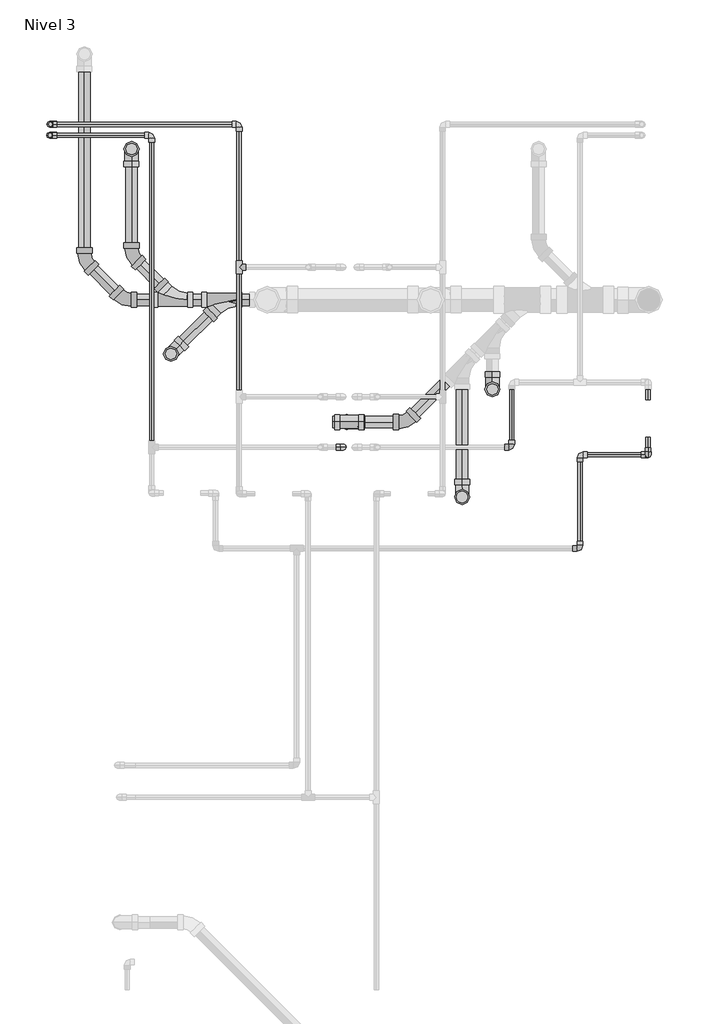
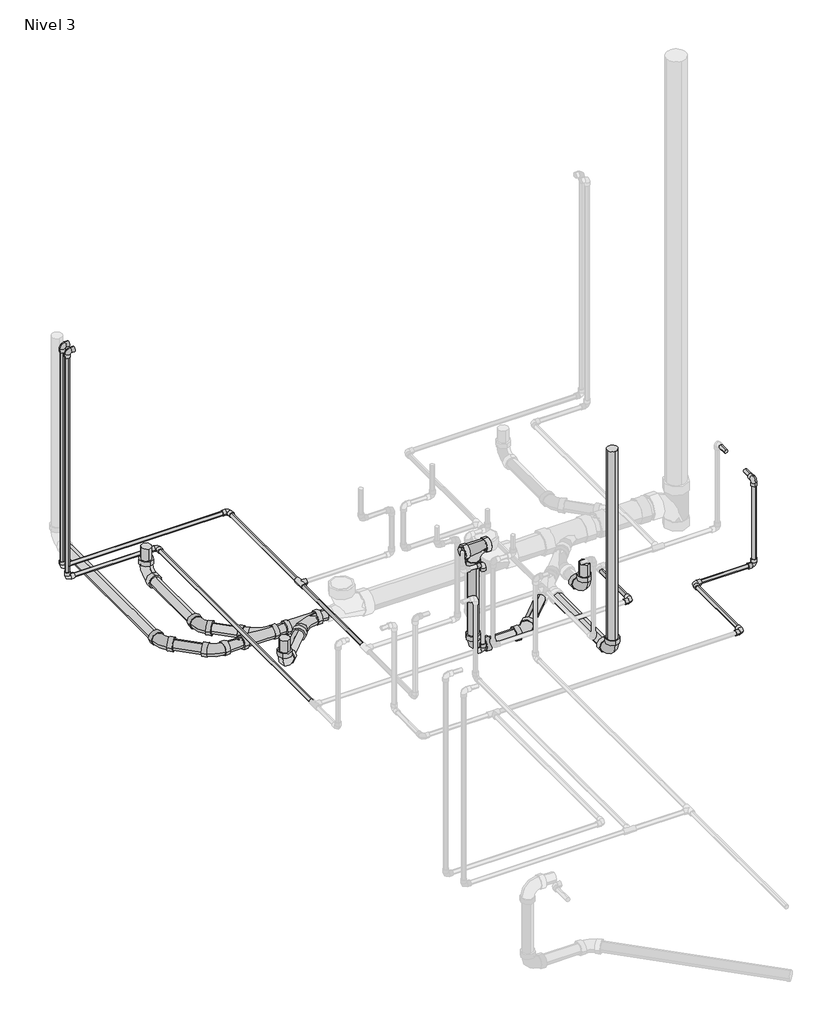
# One storey, part 8 of 9: 31 pipe segments, 26 pipe fittings.
"""IFC4 building model written with IfcOpenShell, lengths in millimetres."""

from ifc_helpers import new_model, si_unit, point, frame, frame_2d, origin, place, context, project, spatial, circle_curve, trimmed, segment, composite_curve, outline, extrude, transform, mapped, element, save
from components import pipe_fitting_ab418b84, pipe_fitting_0163322b, pipe_fitting_6ef1482d, m_codo_pvc_serie_40_9ad74631, m_codo_pvc_serie_40_ba05d404, m_codo_pvc_serie_40_dwv1_5c0ec739, m_codo_pvc_serie_40_dwv1_6f1a2495

model = new_model("IFC4")

# Units and contexts
model_context = context("Model", 3, world=origin())
ifc_project = project(units=[si_unit("LENGTHUNIT", "METRE", prefix="MILLI")], contexts=[model_context])

# Site, building, storey
site = spatial("IfcSite", under=ifc_project)
building = spatial("IfcBuilding", under=site)
storey = spatial("IfcBuildingStorey", under=building, Name="Nivel 3", Elevation=5450.0)

# Pipe fittings
placement = place(None, origin())
pipe_fitting_shape = pipe_fitting_ab418b84(model_context)
element("IfcPipeFitting", 1, ObjectType="M_Te - PVC - Serie 40 : Estándar", at=placement, inside=storey, context=model_context, shape_type="MappedRepresentation", body=[
    mapped(pipe_fitting_shape, transform((3940.052369, 16556.8784649, 5400.0), x_axis=(0.0, 1.0, 0.0), y_axis=(-1.0, 0.0, 0.0), z_axis=(0.0, 0.0, 1.0))),
])
pipe_fitting_2_shape = pipe_fitting_0163322b(model_context)
element("IfcPipeFitting", 2, ObjectType="M_Sanitario con te de reducción - PVC - Serie 40 - DWV : Estándar", at=placement, inside=storey, context=model_context, shape_type="MappedRepresentation", body=[
    mapped(pipe_fitting_2_shape, transform((3642.8791077, 16403.3960274, 5300.0), x_axis=(-1.0, 0.0, 0.0), y_axis=(0.0, -1.0, 0.0), z_axis=(0.0, 0.0, 1.0))),
])
element("IfcPipeFitting", 3, ObjectType="M_Sanitario con te de reducción - PVC - Serie 40 - DWV : Estándar", at=placement, inside=storey, context=model_context, shape_type="MappedRepresentation", body=[
    mapped(pipe_fitting_2_shape, transform((3873.1661658, 16403.3960274, 5300.0), x_axis=(-1.0, 0.0, 0.0), y_axis=(0.0, 1.0, 0.0), z_axis=(0.0, 0.0, -1.0))),
])
pipe_fitting_3_shape = pipe_fitting_6ef1482d(model_context)
element("IfcPipeFitting", 4, ObjectType="M_Sanitario con te de reducción - PVC - Serie 40 - DWV : Estándar", at=placement, inside=storey, context=model_context, shape_type="MappedRepresentation", body=[
    mapped(pipe_fitting_3_shape, transform((4444.9531324, 15830.0, 5860.6716548), x_axis=(-1.0, 0.0, 0.0), y_axis=(0.0, 0.0, 1.0), z_axis=(0.0, 1.0, 0.0))),
])
m_codo_pvc_serie_40_shape = m_codo_pvc_serie_40_9ad74631(model_context)
element("IfcPipeFitting", 5, ObjectType="M_Codo - PVC - Serie 40 : Estándar", at=placement, inside=storey, context=model_context, shape_type="MappedRepresentation", body=[
    mapped(m_codo_pvc_serie_40_shape, transform((3940.052369, 17227.3386211, 5400.0), x_axis=(0.0, 1.0, 0.0), y_axis=(-1.0, 0.0, 0.0), z_axis=(0.0, 0.0, 1.0))),
])
element("IfcPipeFitting", 6, ObjectType="M_Codo - PVC - Serie 40 : Estándar", at=placement, inside=storey, context=model_context, shape_type="MappedRepresentation", body=[
    mapped(m_codo_pvc_serie_40_shape, transform((3051.302369, 17227.3386211, 5400.0), x_axis=(-1.0, 0.0, 0.0), y_axis=(0.0, 0.0, 1.0), z_axis=(0.0, 1.0, 0.0))),
])
element("IfcPipeFitting", 7, ObjectType="M_Codo - PVC - Serie 40 : Estándar", at=placement, inside=storey, context=model_context, shape_type="MappedRepresentation", body=[
    mapped(m_codo_pvc_serie_40_shape, transform((3051.302369, 17227.3386211, 6650.0), x_axis=(0.0, 0.0, 1.0), y_axis=(1.0, 0.0, 0.0), z_axis=(0.0, 1.0, 0.0))),
])
element("IfcPipeFitting", 8, ObjectType="M_Codo - PVC - Serie 40 : Estándar", at=placement, inside=storey, context=model_context, shape_type="MappedRepresentation", body=[
    mapped(m_codo_pvc_serie_40_shape, transform((3529.5674476, 17176.3878958, 5370.0), x_axis=(0.0, 1.0, 0.0), y_axis=(-1.0, 0.0, 0.0), z_axis=(0.0, 0.0, 1.0))),
])
element("IfcPipeFitting", 9, ObjectType="M_Codo - PVC - Serie 40 : Estándar", at=placement, inside=storey, context=model_context, shape_type="MappedRepresentation", body=[
    mapped(m_codo_pvc_serie_40_shape, transform((3049.5674476, 17176.3878958, 5370.0), x_axis=(-1.0, 0.0, 0.0), y_axis=(0.0, 0.0, 1.0), z_axis=(0.0, 1.0, 0.0))),
])
element("IfcPipeFitting", 10, ObjectType="M_Codo - PVC - Serie 40 : Estándar", at=placement, inside=storey, context=model_context, shape_type="MappedRepresentation", body=[
    mapped(m_codo_pvc_serie_40_shape, transform((3049.5674476, 17176.3878958, 6650.0), x_axis=(0.0, 0.0, 1.0), y_axis=(1.0, 0.0, 0.0), z_axis=(0.0, 1.0, 0.0))),
])
element("IfcPipeFitting", 11, ObjectType="M_Codo - PVC - Serie 40 : Estándar", at=placement, inside=storey, context=model_context, shape_type="MappedRepresentation", body=[
    mapped(m_codo_pvc_serie_40_shape, transform((5540.0276039, 15236.3878958, 5370.0), x_axis=(1.0, 0.0, 0.0), y_axis=(0.0, 1.0, 0.0), z_axis=(0.0, 0.0, 1.0))),
])
element("IfcPipeFitting", 12, ObjectType="M_Codo - PVC - Serie 40 : Estándar", at=placement, inside=storey, context=model_context, shape_type="MappedRepresentation", body=[
    mapped(m_codo_pvc_serie_40_shape, transform((5540.0276039, 15676.3878958, 5370.0), x_axis=(-1.0, 0.0, 0.0), y_axis=(0.0, -1.0, 0.0), z_axis=(0.0, 0.0, 1.0))),
])
element("IfcPipeFitting", 13, ObjectType="M_Codo - PVC - Serie 40 : Estándar", at=placement, inside=storey, context=model_context, shape_type="MappedRepresentation", body=[
    mapped(m_codo_pvc_serie_40_shape, transform((5860.0276039, 15676.3878958, 5370.0), x_axis=(1.0, 0.0, 0.0), y_axis=(0.0, 0.0, 1.0), z_axis=(0.0, -1.0, 0.0))),
])
element("IfcPipeFitting", 14, ObjectType="M_Codo - PVC - Serie 40 : Estándar", at=placement, inside=storey, context=model_context, shape_type="MappedRepresentation", body=[
    mapped(m_codo_pvc_serie_40_shape, transform((5860.0276039, 15676.3878958, 5850.0), x_axis=(0.0, 0.0, 1.0), y_axis=(0.0, 1.0, 0.0), z_axis=(-1.0, 0.0, 0.0))),
])
element("IfcPipeFitting", 15, ObjectType="M_Codo - PVC - Serie 40 : Estándar", at=placement, inside=storey, context=model_context, shape_type="MappedRepresentation", body=[
    mapped(m_codo_pvc_serie_40_shape, transform((5219.5674476, 15711.6215833, 5370.0), x_axis=(1.0, 0.0, 0.0), y_axis=(0.0, 1.0, 0.0), z_axis=(0.0, 0.0, 1.0))),
])
element("IfcPipeFitting", 16, ObjectType="M_Codo - PVC - Serie 40 : Estándar", at=placement, inside=storey, context=model_context, shape_type="MappedRepresentation", body=[
    mapped(m_codo_pvc_serie_40_shape, transform((4428.802369, 15711.6215833, 5370.0), x_axis=(0.0, 0.0, -1.0), y_axis=(-1.0, 0.0, 0.0), z_axis=(0.0, 1.0, 0.0))),
])
m_codo_pvc_serie_40_2_shape = m_codo_pvc_serie_40_ba05d404(model_context)
element("IfcPipeFitting", 17, ObjectType="M_Codo - PVC - Serie 40 : Estándar", at=placement, inside=storey, context=model_context, shape_type="MappedRepresentation", body=[
    mapped(m_codo_pvc_serie_40_2_shape, transform((4428.802369, 15711.6215833, 5850.0), x_axis=(1.0, 0.0, 0.0), y_axis=(0.0, 0.0, 1.0), z_axis=(0.0, -1.0, 0.0))),
])
m_codo_pvc_serie_40_dwv1_shape = m_codo_pvc_serie_40_dwv1_5c0ec739(model_context)
element("IfcPipeFitting", 18, ObjectType="M_Codo - PVC - Serie 40 - DWV1 : Estándar 2", at=placement, inside=storey, context=model_context, shape_type="MappedRepresentation", body=[
    mapped(m_codo_pvc_serie_40_dwv1_shape, transform((3434.5151234, 17111.7600116, 5300.0), x_axis=(0.0, 1.0, 0.0), y_axis=(0.0, 0.0, 1.0), z_axis=(1.0, 0.0, 0.0))),
])
element("IfcPipeFitting", 19, ObjectType="M_Codo - PVC - Serie 40 - DWV1 : Estándar 2", at=placement, inside=storey, context=model_context, shape_type="MappedRepresentation", body=[
    mapped(m_codo_pvc_serie_40_dwv1_shape, transform((4444.9531324, 15830.0, 5300.0), x_axis=(0.0, 0.0, -1.0), y_axis=(1.0, 0.0, 0.0), z_axis=(0.0, -1.0, 0.0))),
])
element("IfcPipeFitting", 20, ObjectType="M_Codo - PVC - Serie 40 - DWV1 : Estándar 2", at=placement, inside=storey, context=model_context, shape_type="MappedRepresentation", body=[
    mapped(m_codo_pvc_serie_40_dwv1_shape, transform((5128.991198, 15983.6158639, 5300.0), x_axis=(0.0, -1.0, 0.0), y_axis=(0.0, 0.0, 1.0), z_axis=(-1.0, 0.0, 0.0))),
])
element("IfcPipeFitting", 21, ObjectType="M_Codo - PVC - Serie 40 - DWV1 : Estándar 2", at=placement, inside=storey, context=model_context, shape_type="MappedRepresentation", body=[
    mapped(m_codo_pvc_serie_40_dwv1_shape, transform((3619.7701384, 16150.0, 5300.0), x_axis=(-0.7071067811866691, -0.7071067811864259, 0.0), y_axis=(0.0, 0.0, 1.0), z_axis=(-0.7071067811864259, 0.7071067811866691, 0.0))),
])
element("IfcPipeFitting", 22, ObjectType="M_Codo - PVC - Serie 40 - DWV1 : Estándar 2", at=placement, inside=storey, context=model_context, shape_type="MappedRepresentation", body=[
    mapped(m_codo_pvc_serie_40_dwv1_shape, transform((4986.7349767, 15478.0354988, 5300.0), x_axis=(0.0, 0.0, -1.0), y_axis=(0.0, 1.0, 0.0), z_axis=(1.0, 0.0, 0.0))),
])
m_codo_pvc_serie_40_dwv1_2_shape = m_codo_pvc_serie_40_dwv1_6f1a2495(model_context)
element("IfcPipeFitting", 23, ObjectType="M_Codo - PVC - Serie 40 - DWV1 : Estándar 2", at=placement, inside=storey, context=model_context, shape_type="MappedRepresentation", body=[
    mapped(m_codo_pvc_serie_40_dwv1_2_shape, transform((3434.5151234, 16611.7600116, 5300.0), x_axis=(0.0, -1.0, 0.0), y_axis=(1.0, 0.0, 0.0), z_axis=(0.0, 0.0, 1.0))),
])
element("IfcPipeFitting", 24, ObjectType="M_Codo - PVC - Serie 40 - DWV1 : Estándar 2", at=placement, inside=storey, context=model_context, shape_type="MappedRepresentation", body=[
    mapped(m_codo_pvc_serie_40_dwv1_2_shape, transform((4723.699478, 15830.0, 5300.0), x_axis=(1.0, 0.0, 0.0), y_axis=(0.0, 1.0, 0.0), z_axis=(0.0, 0.0, 1.0))),
])
element("IfcPipeFitting", 25, ObjectType="M_Codo - PVC - Serie 40 - DWV1 : Estándar 2", at=placement, inside=storey, context=model_context, shape_type="MappedRepresentation", body=[
    mapped(m_codo_pvc_serie_40_dwv1_2_shape, transform((3213.7125219, 16587.2430701, 5300.0), x_axis=(0.0, -1.0, 0.0), y_axis=(1.0, 0.0, 0.0), z_axis=(0.0, 0.0, 1.0))),
])
element("IfcPipeFitting", 26, ObjectType="M_Codo - PVC - Serie 40 - DWV1 : Estándar 2", at=placement, inside=storey, context=model_context, shape_type="MappedRepresentation", body=[
    mapped(m_codo_pvc_serie_40_dwv1_2_shape, transform((3397.5595646, 16403.3960274, 5300.0), x_axis=(0.7071067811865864, -0.7071067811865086, 0.0), y_axis=(0.7071067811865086, 0.7071067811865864, 0.0), z_axis=(0.0, 0.0, 1.0))),
])

# Pipe segments
element("IfcPipeSegment", 27, ObjectType="Tuberia PVC Agua Fria", at=placement, inside=storey, context=model_context, shape_type="SweptSolid", body=[
    extrude(outline(composite_curve([segment(trimmed(circle_curve(frame_2d((5400.0, 3940.052369)), 10.31875), [point((5400.0, 3929.733619))], [point((5389.68125, 3940.052369))], False, "CARTESIAN"), True, "CONTINUOUS"), segment(trimmed(circle_curve(frame_2d((5400.0, 3940.052369)), 10.31875), [point((5389.68125, 3940.052369))], [point((5400.0, 3950.371119))], False, "CARTESIAN"), True, "CONTINUOUS"), segment(trimmed(circle_curve(frame_2d((5400.0, 3940.052369)), 10.31875), [point((5400.0, 3950.371119))], [point((5410.31875, 3940.052369))], False, "CARTESIAN"), True, "CONTINUOUS"), segment(trimmed(circle_curve(frame_2d((5400.0, 3940.052369)), 10.31875), [point((5410.31875, 3940.052369))], [point((5400.0, 3929.733619))], False, "CARTESIAN"), True, "CONTINUOUS")], self_intersect=False)), frame((0.0, 15978.8385729, 0.0), z_axis=(0.0, 1.0, 0.0), x_axis=(0.0, 0.0, 1.0)), (0.0, 0.0, 1.0), 547.5797357),
])
element("IfcPipeSegment", 28, ObjectType="Tuberia PVC Agua Fria", at=placement, inside=storey, context=model_context, shape_type="SweptSolid", body=[
    extrude(outline(composite_curve([segment(trimmed(circle_curve(frame_2d((5400.0, 3940.052369)), 10.31875), [point((5400.0, 3950.371119))], [point((5410.31875, 3940.052369))], False, "CARTESIAN"), True, "CONTINUOUS"), segment(trimmed(circle_curve(frame_2d((5400.0, 3940.052369)), 10.31875), [point((5410.31875, 3940.052369))], [point((5400.0, 3929.733619))], False, "CARTESIAN"), True, "CONTINUOUS"), segment(trimmed(circle_curve(frame_2d((5400.0, 3940.052369)), 10.31875), [point((5400.0, 3929.733619))], [point((5389.68125, 3940.052369))], False, "CARTESIAN"), True, "CONTINUOUS"), segment(trimmed(circle_curve(frame_2d((5400.0, 3940.052369)), 10.31875), [point((5389.68125, 3940.052369))], [point((5400.0, 3950.371119))], False, "CARTESIAN"), True, "CONTINUOUS")], self_intersect=False)), frame((0.0, 16587.3386211, 0.0), z_axis=(0.0, 1.0, 0.0), x_axis=(0.0, 0.0, 1.0)), (0.0, 0.0, 1.0), 606.599),
])
element("IfcPipeSegment", 29, ObjectType="Tuberia PVC Agua Fria", at=placement, inside=storey, context=model_context, shape_type="SweptSolid", body=[
    extrude(outline(composite_curve([segment(trimmed(circle_curve(frame_2d((17227.3386211, 5400.0)), 10.31875), [point((17237.6573711, 5400.0))], [point((17227.3386211, 5389.68125))], False, "CARTESIAN"), True, "CONTINUOUS"), segment(trimmed(circle_curve(frame_2d((17227.3386211, 5400.0)), 10.31875), [point((17227.3386211, 5389.68125))], [point((17217.0198711, 5400.0))], False, "CARTESIAN"), True, "CONTINUOUS"), segment(trimmed(circle_curve(frame_2d((17227.3386211, 5400.0)), 10.31875), [point((17217.0198711, 5400.0))], [point((17227.3386211, 5410.31875))], False, "CARTESIAN"), True, "CONTINUOUS"), segment(trimmed(circle_curve(frame_2d((17227.3386211, 5400.0)), 10.31875), [point((17227.3386211, 5410.31875))], [point((17237.6573711, 5400.0))], False, "CARTESIAN"), True, "CONTINUOUS")], self_intersect=False)), frame((3084.703369, 0.0, 0.0), z_axis=(1.0, 0.0, 0.0), x_axis=(0.0, 1.0, 0.0)), (0.0, 0.0, 1.0), 821.948),
])
element("IfcPipeSegment", 30, ObjectType="Tuberia PVC Agua Fria", at=placement, inside=storey, context=model_context, shape_type="SweptSolid", body=[
    extrude(outline(composite_curve([segment(trimmed(circle_curve(frame_2d((3051.302369, 17227.3386211)), 10.31875), [point((3040.983619, 17227.3386211))], [point((3051.302369, 17237.6573711))], False, "CARTESIAN"), True, "CONTINUOUS"), segment(trimmed(circle_curve(frame_2d((3051.302369, 17227.3386211)), 10.31875), [point((3051.302369, 17237.6573711))], [point((3061.621119, 17227.3386211))], False, "CARTESIAN"), True, "CONTINUOUS"), segment(trimmed(circle_curve(frame_2d((3051.302369, 17227.3386211)), 10.31875), [point((3061.621119, 17227.3386211))], [point((3051.302369, 17217.0198711))], False, "CARTESIAN"), True, "CONTINUOUS"), segment(trimmed(circle_curve(frame_2d((3051.302369, 17227.3386211)), 10.31875), [point((3051.302369, 17217.0198711))], [point((3040.983619, 17227.3386211))], False, "CARTESIAN"), True, "CONTINUOUS")], self_intersect=False)), frame((0.0, 0.0, 5433.401), z_axis=(0.0, 0.0, 1.0), x_axis=(1.0, 0.0, 0.0)), (0.0, 0.0, 1.0), 1183.198),
])
element("IfcPipeSegment", 31, ObjectType="Tuberia PVC VENTILACION", at=placement, inside=storey, context=model_context, shape_type="SweptSolid", body=[
    extrude(outline(composite_curve([segment(trimmed(circle_curve(frame_2d((16403.3960274, 5300.0)), 26.9875), [point((16376.4085274, 5300.0))], [point((16403.3960274, 5326.9875))], False, "CARTESIAN"), True, "CONTINUOUS"), segment(trimmed(circle_curve(frame_2d((16403.3960274, 5300.0)), 26.9875), [point((16403.3960274, 5326.9875))], [point((16430.3835274, 5300.0))], False, "CARTESIAN"), True, "CONTINUOUS"), segment(trimmed(circle_curve(frame_2d((16403.3960274, 5300.0)), 26.9875), [point((16430.3835274, 5300.0))], [point((16403.3960274, 5273.0125))], False, "CARTESIAN"), True, "CONTINUOUS"), segment(trimmed(circle_curve(frame_2d((16403.3960274, 5300.0)), 26.9875), [point((16403.3960274, 5273.0125))], [point((16376.4085274, 5300.0))], False, "CARTESIAN"), True, "CONTINUOUS")], self_intersect=False)), frame((3457.9877521, 0.0, 0.0), z_axis=(1.0, 0.0, 0.0), x_axis=(0.0, 1.0, 0.0)), (0.0, 0.0, 1.0), 76.0537489),
])
element("IfcPipeSegment", 32, ObjectType="Tuberia PVC VENTILACION", at=placement, inside=storey, context=model_context, shape_type="SweptSolid", body=[
    extrude(outline(composite_curve([segment(trimmed(circle_curve(frame_2d((5300.0, 3213.7125219)), 26.9875), [point((5300.0, 3240.7000219))], [point((5326.9875, 3213.7125219))], False, "CARTESIAN"), True, "CONTINUOUS"), segment(trimmed(circle_curve(frame_2d((5300.0, 3213.7125219)), 26.9875), [point((5326.9875, 3213.7125219))], [point((5300.0, 3186.7250219))], False, "CARTESIAN"), True, "CONTINUOUS"), segment(trimmed(circle_curve(frame_2d((5300.0, 3213.7125219)), 26.9875), [point((5300.0, 3186.7250219))], [point((5273.0125, 3213.7125219))], False, "CARTESIAN"), True, "CONTINUOUS"), segment(trimmed(circle_curve(frame_2d((5300.0, 3213.7125219)), 26.9875), [point((5273.0125, 3213.7125219))], [point((5300.0, 3240.7000219))], False, "CARTESIAN"), True, "CONTINUOUS")], self_intersect=False)), frame((0.0, 16647.6712576, 0.0), z_axis=(0.0, 1.0, 0.0), x_axis=(0.0, 0.0, 1.0)), (0.0, 0.0, 1.0), 827.02975),
])
element("IfcPipeSegment", 33, ObjectType="Tuberia PVC VENTILACION", at=placement, inside=storey, context=model_context, shape_type="SweptSolid", body=[
    extrude(outline(composite_curve([segment(trimmed(circle_curve(frame_2d((0.0, -26.9875)), 26.9875), [point((-26.9875, -26.9875))], [point((0.0, 0.0))], False, "CARTESIAN"), True, "CONTINUOUS"), segment(trimmed(circle_curve(frame_2d((0.0, -26.9875)), 26.9875), [point((0.0, 0.0))], [point((26.9875001, -26.9875))], False, "CARTESIAN"), True, "CONTINUOUS"), segment(trimmed(circle_curve(frame_2d((0.0, -26.9875)), 26.9875), [point((26.9875001, -26.9875))], [point((0.0, -53.975))], False, "CARTESIAN"), True, "CONTINUOUS"), segment(trimmed(circle_curve(frame_2d((0.0, -26.9875)), 26.9875), [point((0.0, -53.975))], [point((-26.9875, -26.9875))], False, "CARTESIAN"), True, "CONTINUOUS")], self_intersect=False)), frame((3354.8303834, 16446.1252085, 5273.0125), z_axis=(-0.7071067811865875, 0.7071067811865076, 0.0), x_axis=(0.7071067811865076, 0.7071067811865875, 0.0)), (0.0, 0.0, 1.0), 139.1426062),
])
element("IfcPipeSegment", 34, ObjectType="Tuberia PVC VENTILACION", at=placement, inside=storey, context=model_context, shape_type="SweptSolid", body=[
    extrude(outline(composite_curve([segment(trimmed(circle_curve(frame_2d((5300.0, 4986.7349767)), 26.9875), [point((5300.0, 5013.7224767))], [point((5326.9875, 4986.7349767))], False, "CARTESIAN"), True, "CONTINUOUS"), segment(trimmed(circle_curve(frame_2d((5300.0, 4986.7349767)), 26.9875), [point((5326.9875, 4986.7349767))], [point((5300.0, 4959.7474767))], False, "CARTESIAN"), True, "CONTINUOUS"), segment(trimmed(circle_curve(frame_2d((5300.0, 4986.7349767)), 26.9875), [point((5300.0, 4959.7474767))], [point((5273.0125, 4986.7349767))], False, "CARTESIAN"), True, "CONTINUOUS"), segment(trimmed(circle_curve(frame_2d((5300.0, 4986.7349767)), 26.9875), [point((5273.0125, 4986.7349767))], [point((5300.0, 5013.7224767))], False, "CARTESIAN"), True, "CONTINUOUS")], self_intersect=False)), frame((0.0, 15560.5775613, 0.0), z_axis=(0.0, 1.0, 0.0), x_axis=(0.0, 0.0, 1.0)), (0.0, 0.0, 1.0), 423.6203308),
])
element("IfcPipeSegment", 35, ObjectType="Tuberia PVC VENTILACION", at=placement, inside=storey, context=model_context, shape_type="SweptSolid", body=[
    extrude(outline(composite_curve([segment(trimmed(circle_curve(frame_2d((4986.7349767, 15478.0354988)), 26.9875), [point((4959.7474767, 15478.0354988))], [point((4986.7349767, 15505.0229988))], False, "CARTESIAN"), True, "CONTINUOUS"), segment(trimmed(circle_curve(frame_2d((4986.7349767, 15478.0354988)), 26.9875), [point((4986.7349767, 15505.0229988))], [point((5013.7224767, 15478.0354988))], False, "CARTESIAN"), True, "CONTINUOUS"), segment(trimmed(circle_curve(frame_2d((4986.7349767, 15478.0354988)), 26.9875), [point((5013.7224767, 15478.0354988))], [point((4986.7349767, 15451.0479988))], False, "CARTESIAN"), True, "CONTINUOUS"), segment(trimmed(circle_curve(frame_2d((4986.7349767, 15478.0354988)), 26.9875), [point((4986.7349767, 15451.0479988))], [point((4959.7474767, 15478.0354988))], False, "CARTESIAN"), True, "CONTINUOUS")], self_intersect=False)), frame((0.0, 0.0, 5382.5420625), z_axis=(0.0, 0.0, 1.0), x_axis=(1.0, 0.0, 0.0)), (0.0, 0.0, 1.0), 1067.4579375),
])
element("IfcPipeSegment", 36, ObjectType="Tuberia PVC Agua Caliente", at=placement, inside=storey, context=model_context, shape_type="SweptSolid", body=[
    extrude(outline(composite_curve([segment(trimmed(circle_curve(frame_2d((17176.3878958, 5370.0)), 10.31875), [point((17186.7066458, 5370.0))], [point((17176.3878958, 5359.68125))], False, "CARTESIAN"), True, "CONTINUOUS"), segment(trimmed(circle_curve(frame_2d((17176.3878958, 5370.0)), 10.31875), [point((17176.3878958, 5359.68125))], [point((17166.0691458, 5370.0))], False, "CARTESIAN"), True, "CONTINUOUS"), segment(trimmed(circle_curve(frame_2d((17176.3878958, 5370.0)), 10.31875), [point((17166.0691458, 5370.0))], [point((17176.3878958, 5380.31875))], False, "CARTESIAN"), True, "CONTINUOUS"), segment(trimmed(circle_curve(frame_2d((17176.3878958, 5370.0)), 10.31875), [point((17176.3878958, 5380.31875))], [point((17186.7066458, 5370.0))], False, "CARTESIAN"), True, "CONTINUOUS")], self_intersect=False)), frame((3082.9684476, 0.0, 0.0), z_axis=(1.0, 0.0, 0.0), x_axis=(0.0, 1.0, 0.0)), (0.0, 0.0, 1.0), 413.198),
])
element("IfcPipeSegment", 37, ObjectType="Tuberia PVC Agua Caliente", at=placement, inside=storey, context=model_context, shape_type="SweptSolid", body=[
    extrude(outline(composite_curve([segment(trimmed(circle_curve(frame_2d((3049.5674476, 17176.3878958)), 10.31875), [point((3039.2486976, 17176.3878958))], [point((3049.5674476, 17186.7066458))], False, "CARTESIAN"), True, "CONTINUOUS"), segment(trimmed(circle_curve(frame_2d((3049.5674476, 17176.3878958)), 10.31875), [point((3049.5674476, 17186.7066458))], [point((3059.8861976, 17176.3878958))], False, "CARTESIAN"), True, "CONTINUOUS"), segment(trimmed(circle_curve(frame_2d((3049.5674476, 17176.3878958)), 10.31875), [point((3059.8861976, 17176.3878958))], [point((3049.5674476, 17166.0691458))], False, "CARTESIAN"), True, "CONTINUOUS"), segment(trimmed(circle_curve(frame_2d((3049.5674476, 17176.3878958)), 10.31875), [point((3049.5674476, 17166.0691458))], [point((3039.2486976, 17176.3878958))], False, "CARTESIAN"), True, "CONTINUOUS")], self_intersect=False)), frame((0.0, 0.0, 5403.401), z_axis=(0.0, 0.0, 1.0), x_axis=(1.0, 0.0, 0.0)), (0.0, 0.0, 1.0), 1213.198),
])
element("IfcPipeSegment", 38, ObjectType="Tuberia PVC Agua Caliente", at=placement, inside=storey, context=model_context, shape_type="SweptSolid", body=[
    extrude(outline(composite_curve([segment(trimmed(circle_curve(frame_2d((5370.0, 5540.0276039)), 10.31875), [point((5370.0, 5550.3463539))], [point((5380.31875, 5540.0276039))], False, "CARTESIAN"), True, "CONTINUOUS"), segment(trimmed(circle_curve(frame_2d((5370.0, 5540.0276039)), 10.31875), [point((5380.31875, 5540.0276039))], [point((5370.0, 5529.7088539))], False, "CARTESIAN"), True, "CONTINUOUS"), segment(trimmed(circle_curve(frame_2d((5370.0, 5540.0276039)), 10.31875), [point((5370.0, 5529.7088539))], [point((5359.68125, 5540.0276039))], False, "CARTESIAN"), True, "CONTINUOUS"), segment(trimmed(circle_curve(frame_2d((5370.0, 5540.0276039)), 10.31875), [point((5359.68125, 5540.0276039))], [point((5370.0, 5550.3463539))], False, "CARTESIAN"), True, "CONTINUOUS")], self_intersect=False)), frame((0.0, 15269.7888958, 0.0), z_axis=(0.0, 1.0, 0.0), x_axis=(0.0, 0.0, 1.0)), (0.0, 0.0, 1.0), 373.198),
])
element("IfcPipeSegment", 39, ObjectType="Tuberia PVC Agua Caliente", at=placement, inside=storey, context=model_context, shape_type="SweptSolid", body=[
    extrude(outline(composite_curve([segment(trimmed(circle_curve(frame_2d((15676.3878958, 5370.0)), 10.31875), [point((15666.0691458, 5370.0))], [point((15676.3878958, 5380.31875))], False, "CARTESIAN"), True, "CONTINUOUS"), segment(trimmed(circle_curve(frame_2d((15676.3878958, 5370.0)), 10.31875), [point((15676.3878958, 5380.31875))], [point((15686.7066458, 5370.0))], False, "CARTESIAN"), True, "CONTINUOUS"), segment(trimmed(circle_curve(frame_2d((15676.3878958, 5370.0)), 10.31875), [point((15686.7066458, 5370.0))], [point((15676.3878958, 5359.68125))], False, "CARTESIAN"), True, "CONTINUOUS"), segment(trimmed(circle_curve(frame_2d((15676.3878958, 5370.0)), 10.31875), [point((15676.3878958, 5359.68125))], [point((15666.0691458, 5370.0))], False, "CARTESIAN"), True, "CONTINUOUS")], self_intersect=False)), frame((5573.4286039, 0.0, 0.0), z_axis=(1.0, 0.0, 0.0), x_axis=(0.0, 1.0, 0.0)), (0.0, 0.0, 1.0), 253.198),
])
element("IfcPipeSegment", 40, ObjectType="Tuberia PVC Agua Caliente", at=placement, inside=storey, context=model_context, shape_type="SweptSolid", body=[
    extrude(outline(composite_curve([segment(trimmed(circle_curve(frame_2d((5850.0, 5860.0276039)), 10.31875), [point((5850.0, 5870.3463539))], [point((5860.31875, 5860.0276039))], False, "CARTESIAN"), True, "CONTINUOUS"), segment(trimmed(circle_curve(frame_2d((5850.0, 5860.0276039)), 10.31875), [point((5860.31875, 5860.0276039))], [point((5850.0, 5849.7088539))], False, "CARTESIAN"), True, "CONTINUOUS"), segment(trimmed(circle_curve(frame_2d((5850.0, 5860.0276039)), 10.31875), [point((5850.0, 5849.7088539))], [point((5839.68125, 5860.0276039))], False, "CARTESIAN"), True, "CONTINUOUS"), segment(trimmed(circle_curve(frame_2d((5850.0, 5860.0276039)), 10.31875), [point((5839.68125, 5860.0276039))], [point((5850.0, 5870.3463539))], False, "CARTESIAN"), True, "CONTINUOUS")], self_intersect=False)), frame((0.0, 15935.3878958, 0.0), z_axis=(0.0, 1.0, 0.0), x_axis=(0.0, 0.0, 1.0)), (0.0, 0.0, 1.0), 47.599),
])
element("IfcPipeSegment", 41, ObjectType="Tuberia PVC Agua Caliente", at=placement, inside=storey, context=model_context, shape_type="SweptSolid", body=[
    extrude(outline(composite_curve([segment(trimmed(circle_curve(frame_2d((5860.0276039, 15676.3878958)), 10.31875), [point((5849.7088539, 15676.3878958))], [point((5860.0276039, 15686.7066458))], False, "CARTESIAN"), True, "CONTINUOUS"), segment(trimmed(circle_curve(frame_2d((5860.0276039, 15676.3878958)), 10.31875), [point((5860.0276039, 15686.7066458))], [point((5870.3463539, 15676.3878958))], False, "CARTESIAN"), True, "CONTINUOUS"), segment(trimmed(circle_curve(frame_2d((5860.0276039, 15676.3878958)), 10.31875), [point((5870.3463539, 15676.3878958))], [point((5860.0276039, 15666.0691458))], False, "CARTESIAN"), True, "CONTINUOUS"), segment(trimmed(circle_curve(frame_2d((5860.0276039, 15676.3878958)), 10.31875), [point((5860.0276039, 15666.0691458))], [point((5849.7088539, 15676.3878958))], False, "CARTESIAN"), True, "CONTINUOUS")], self_intersect=False)), frame((0.0, 0.0, 5403.401), z_axis=(0.0, 0.0, 1.0), x_axis=(1.0, 0.0, 0.0)), (0.0, 0.0, 1.0), 413.198),
])
element("IfcPipeSegment", 42, ObjectType="Tuberia PVC Agua Caliente", at=placement, inside=storey, context=model_context, shape_type="SweptSolid", body=[
    extrude(outline(composite_curve([segment(trimmed(circle_curve(frame_2d((5370.0, 5219.5674476)), 10.31875), [point((5370.0, 5209.2486976))], [point((5359.68125, 5219.5674476))], False, "CARTESIAN"), True, "CONTINUOUS"), segment(trimmed(circle_curve(frame_2d((5370.0, 5219.5674476)), 10.31875), [point((5359.68125, 5219.5674476))], [point((5370.0, 5229.8861976))], False, "CARTESIAN"), True, "CONTINUOUS"), segment(trimmed(circle_curve(frame_2d((5370.0, 5219.5674476)), 10.31875), [point((5370.0, 5229.8861976))], [point((5380.31875, 5219.5674476))], False, "CARTESIAN"), True, "CONTINUOUS"), segment(trimmed(circle_curve(frame_2d((5370.0, 5219.5674476)), 10.31875), [point((5380.31875, 5219.5674476))], [point((5370.0, 5209.2486976))], False, "CARTESIAN"), True, "CONTINUOUS")], self_intersect=False)), frame((0.0, 15745.0225833, 0.0), z_axis=(0.0, 1.0, 0.0), x_axis=(0.0, 0.0, 1.0)), (0.0, 0.0, 1.0), 237.9643125),
])
element("IfcPipeSegment", 43, ObjectType="Tuberia PVC Agua Caliente", at=placement, inside=storey, context=model_context, shape_type="SweptSolid", body=[
    extrude(outline(composite_curve([segment(trimmed(circle_curve(frame_2d((5370.0, 3529.5674476)), 10.31875), [point((5370.0, 3539.8861976))], [point((5380.31875, 3529.5674476))], False, "CARTESIAN"), True, "CONTINUOUS"), segment(trimmed(circle_curve(frame_2d((5370.0, 3529.5674476)), 10.31875), [point((5380.31875, 3529.5674476))], [point((5370.0, 3519.2486976))], False, "CARTESIAN"), True, "CONTINUOUS"), segment(trimmed(circle_curve(frame_2d((5370.0, 3529.5674476)), 10.31875), [point((5370.0, 3519.2486976))], [point((5359.68125, 3529.5674476))], False, "CARTESIAN"), True, "CONTINUOUS"), segment(trimmed(circle_curve(frame_2d((5370.0, 3529.5674476)), 10.31875), [point((5359.68125, 3529.5674476))], [point((5370.0, 3539.8861976))], False, "CARTESIAN"), True, "CONTINUOUS")], self_intersect=False)), frame((0.0, 15742.0817396, 0.0), z_axis=(0.0, 1.0, 0.0), x_axis=(0.0, 0.0, 1.0)), (0.0, 0.0, 1.0), 1400.9051562),
])
element("IfcPipeSegment", 44, ObjectType="Tuberia PVC Agua Caliente", at=placement, inside=storey, context=model_context, shape_type="SweptSolid", body=[
    extrude(outline(composite_curve([segment(trimmed(circle_curve(frame_2d((5850.0, 5860.0276039)), 10.31875), [point((5850.0, 5870.3463539))], [point((5860.31875, 5860.0276039))], False, "CARTESIAN"), True, "CONTINUOUS"), segment(trimmed(circle_curve(frame_2d((5850.0, 5860.0276039)), 10.31875), [point((5860.31875, 5860.0276039))], [point((5850.0, 5849.7088539))], False, "CARTESIAN"), True, "CONTINUOUS"), segment(trimmed(circle_curve(frame_2d((5850.0, 5860.0276039)), 10.31875), [point((5850.0, 5849.7088539))], [point((5839.68125, 5860.0276039))], False, "CARTESIAN"), True, "CONTINUOUS"), segment(trimmed(circle_curve(frame_2d((5850.0, 5860.0276039)), 10.31875), [point((5839.68125, 5860.0276039))], [point((5850.0, 5870.3463539))], False, "CARTESIAN"), True, "CONTINUOUS")], self_intersect=False)), frame((0.0, 15709.7888958, 0.0), z_axis=(0.0, 1.0, 0.0), x_axis=(0.0, 0.0, 1.0)), (0.0, 0.0, 1.0), 47.599),
])
element("IfcPipeSegment", 45, ObjectType="Tuberia PVC Sanitario", at=placement, inside=storey, context=model_context, shape_type="SweptSolid", body=[
    extrude(outline(composite_curve([segment(trimmed(circle_curve(frame_2d((15830.0, 5300.0)), 26.9875), [point((15856.9875, 5300.0))], [point((15830.0, 5273.0125))], False, "CARTESIAN"), True, "CONTINUOUS"), segment(trimmed(circle_curve(frame_2d((15830.0, 5300.0)), 26.9875), [point((15830.0, 5273.0125))], [point((15803.0125, 5300.0))], False, "CARTESIAN"), True, "CONTINUOUS"), segment(trimmed(circle_curve(frame_2d((15830.0, 5300.0)), 26.9875), [point((15803.0125, 5300.0))], [point((15830.0, 5326.9875))], False, "CARTESIAN"), True, "CONTINUOUS"), segment(trimmed(circle_curve(frame_2d((15830.0, 5300.0)), 26.9875), [point((15830.0, 5326.9875))], [point((15856.9875, 5300.0))], False, "CARTESIAN"), True, "CONTINUOUS")], self_intersect=False)), frame((4527.4951949, 0.0, 0.0), z_axis=(1.0, 0.0, 0.0), x_axis=(0.0, 1.0, 0.0)), (0.0, 0.0, 1.0), 135.7760956),
])
element("IfcPipeSegment", 46, ObjectType="Tuberia PVC Sanitario", at=placement, inside=storey, context=model_context, shape_type="SweptSolid", body=[
    extrude(outline(composite_curve([segment(trimmed(circle_curve(frame_2d((15830.0, 5860.6716548)), 26.9875), [point((15856.9875, 5860.6716548))], [point((15830.0, 5833.6841548))], False, "CARTESIAN"), True, "CONTINUOUS"), segment(trimmed(circle_curve(frame_2d((15830.0, 5860.6716548)), 26.9875), [point((15830.0, 5833.6841548))], [point((15803.0125, 5860.6716548))], False, "CARTESIAN"), True, "CONTINUOUS"), segment(trimmed(circle_curve(frame_2d((15830.0, 5860.6716548)), 26.9875), [point((15803.0125, 5860.6716548))], [point((15830.0, 5887.6591548))], False, "CARTESIAN"), True, "CONTINUOUS"), segment(trimmed(circle_curve(frame_2d((15830.0, 5860.6716548)), 26.9875), [point((15830.0, 5887.6591548))], [point((15856.9875, 5860.6716548))], False, "CARTESIAN"), True, "CONTINUOUS")], self_intersect=False)), frame((4524.8875992, 0.0, 0.0), z_axis=(1.0, 0.0, 0.0), x_axis=(0.0, 1.0, 0.0)), (0.0, 0.0, 1.0), 5.0655333),
])
element("IfcPipeSegment", 47, ObjectType="Tuberia PVC Sanitario", at=placement, inside=storey, context=model_context, shape_type="SweptSolid", body=[
    extrude(outline(composite_curve([segment(trimmed(circle_curve(frame_2d((4444.9531324, 15830.0)), 26.9875), [point((4471.9406324, 15830.0))], [point((4444.9531324, 15803.0125))], False, "CARTESIAN"), True, "CONTINUOUS"), segment(trimmed(circle_curve(frame_2d((4444.9531324, 15830.0)), 26.9875), [point((4444.9531324, 15803.0125))], [point((4417.9656324, 15830.0))], False, "CARTESIAN"), True, "CONTINUOUS"), segment(trimmed(circle_curve(frame_2d((4444.9531324, 15830.0)), 26.9875), [point((4417.9656324, 15830.0))], [point((4444.9531324, 15856.9875))], False, "CARTESIAN"), True, "CONTINUOUS"), segment(trimmed(circle_curve(frame_2d((4444.9531324, 15830.0)), 26.9875), [point((4444.9531324, 15856.9875))], [point((4471.9406324, 15830.0))], False, "CARTESIAN"), True, "CONTINUOUS")], self_intersect=False)), frame((0.0, 0.0, 5382.5420625), z_axis=(0.0, 0.0, 1.0), x_axis=(1.0, 0.0, 0.0)), (0.0, 0.0, 1.0), 396.3376235),
])
element("IfcPipeSegment", 48, ObjectType="Tuberia PVC Sanitario", at=placement, inside=storey, context=model_context, shape_type="SweptSolid", body=[
    extrude(outline(composite_curve([segment(trimmed(circle_curve(frame_2d((15830.0, 5860.6716548)), 26.9875), [point((15856.9875, 5860.6716548))], [point((15830.0, 5833.6841548))], False, "CARTESIAN"), True, "CONTINUOUS"), segment(trimmed(circle_curve(frame_2d((15830.0, 5860.6716548)), 26.9875), [point((15830.0, 5833.6841548))], [point((15803.0125, 5860.6716548))], False, "CARTESIAN"), True, "CONTINUOUS"), segment(trimmed(circle_curve(frame_2d((15830.0, 5860.6716548)), 26.9875), [point((15803.0125, 5860.6716548))], [point((15830.0, 5887.6591548))], False, "CARTESIAN"), True, "CONTINUOUS"), segment(trimmed(circle_curve(frame_2d((15830.0, 5860.6716548)), 26.9875), [point((15830.0, 5887.6591548))], [point((15856.9875, 5860.6716548))], False, "CARTESIAN"), True, "CONTINUOUS")], self_intersect=False)), frame((4379.9531324, 0.0, 0.0), z_axis=(1.0, 0.0, 0.0), x_axis=(0.0, 1.0, 0.0)), (0.0, 0.0, 1.0), 7.8070105),
])
element("IfcPipeSegment", 49, ObjectType="Tuberia PVC Sanitario", at=placement, inside=storey, context=model_context, shape_type="SweptSolid", body=[
    extrude(outline(composite_curve([segment(trimmed(circle_curve(frame_2d((5300.0, 3434.5151234)), 26.9875), [point((5300.0, 3461.5026234))], [point((5326.9875, 3434.5151234))], False, "CARTESIAN"), True, "CONTINUOUS"), segment(trimmed(circle_curve(frame_2d((5300.0, 3434.5151234)), 26.9875), [point((5326.9875, 3434.5151234))], [point((5300.0, 3407.5276234))], False, "CARTESIAN"), True, "CONTINUOUS"), segment(trimmed(circle_curve(frame_2d((5300.0, 3434.5151234)), 26.9875), [point((5300.0, 3407.5276234))], [point((5273.0125, 3434.5151234))], False, "CARTESIAN"), True, "CONTINUOUS"), segment(trimmed(circle_curve(frame_2d((5300.0, 3434.5151234)), 26.9875), [point((5273.0125, 3434.5151234))], [point((5300.0, 3461.5026234))], False, "CARTESIAN"), True, "CONTINUOUS")], self_intersect=False)), frame((0.0, 16672.1881991, 0.0), z_axis=(0.0, 1.0, 0.0), x_axis=(0.0, 0.0, 1.0)), (0.0, 0.0, 1.0), 357.02975),
])
element("IfcPipeSegment", 50, ObjectType="Tuberia PVC Sanitario", at=placement, inside=storey, context=model_context, shape_type="SweptSolid", body=[
    extrude(outline(composite_curve([segment(trimmed(circle_curve(frame_2d((0.0, 26.9875)), 26.9875), [point((26.9875001, 26.9875))], [point((0.0, 0.0))], False, "CARTESIAN"), True, "CONTINUOUS"), segment(trimmed(circle_curve(frame_2d((0.0, 26.9875)), 26.9875), [point((0.0, 0.0))], [point((-26.9875, 26.9875))], False, "CARTESIAN"), True, "CONTINUOUS"), segment(trimmed(circle_curve(frame_2d((0.0, 26.9875)), 26.9875), [point((-26.9875, 26.9875))], [point((0.0, 53.975))], False, "CARTESIAN"), True, "CONTINUOUS"), segment(trimmed(circle_curve(frame_2d((0.0, 26.9875)), 26.9875), [point((0.0, 53.975))], [point((26.9875001, 26.9875))], False, "CARTESIAN"), True, "CONTINUOUS")], self_intersect=False)), frame((3565.9192979, 16480.3558371, 5326.9875), z_axis=(-0.7071067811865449, 0.7071067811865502, 0.0), x_axis=(0.7071067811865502, 0.7071067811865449, 0.0)), (0.0, 0.0, 1.0), 125.4053782),
])
element("IfcPipeSegment", 51, ObjectType="Tuberia PVC Sanitario", at=placement, inside=storey, context=model_context, shape_type="SweptSolid", body=[
    extrude(outline(composite_curve([segment(trimmed(circle_curve(frame_2d((3434.5151234, 17111.7600116)), 26.9875), [point((3407.5276234, 17111.7600116))], [point((3434.5151234, 17138.7475116))], False, "CARTESIAN"), True, "CONTINUOUS"), segment(trimmed(circle_curve(frame_2d((3434.5151234, 17111.7600116)), 26.9875), [point((3434.5151234, 17138.7475116))], [point((3461.5026234, 17111.7600116))], False, "CARTESIAN"), True, "CONTINUOUS"), segment(trimmed(circle_curve(frame_2d((3434.5151234, 17111.7600116)), 26.9875), [point((3461.5026234, 17111.7600116))], [point((3434.5151234, 17084.7725116))], False, "CARTESIAN"), True, "CONTINUOUS"), segment(trimmed(circle_curve(frame_2d((3434.5151234, 17111.7600116)), 26.9875), [point((3434.5151234, 17084.7725116))], [point((3407.5276234, 17111.7600116))], False, "CARTESIAN"), True, "CONTINUOUS")], self_intersect=False)), frame((0.0, 0.0, 5382.5420625), z_axis=(0.0, 0.0, 1.0), x_axis=(1.0, 0.0, 0.0)), (0.0, 0.0, 1.0), 67.4579375),
])
element("IfcPipeSegment", 52, ObjectType="Tuberia PVC Sanitario", at=placement, inside=storey, context=model_context, shape_type="SweptSolid", body=[
    extrude(outline(composite_curve([segment(trimmed(circle_curve(frame_2d((0.0, -26.9875)), 26.9875), [point((-26.9874999, -26.9875))], [point((0.0, 0.0))], False, "CARTESIAN"), True, "CONTINUOUS"), segment(trimmed(circle_curve(frame_2d((0.0, -26.9875)), 26.9875), [point((0.0, 0.0))], [point((26.9875001, -26.9875))], False, "CARTESIAN"), True, "CONTINUOUS"), segment(trimmed(circle_curve(frame_2d((0.0, -26.9875)), 26.9875), [point((26.9875001, -26.9875))], [point((0.0, -53.975))], False, "CARTESIAN"), True, "CONTINUOUS"), segment(trimmed(circle_curve(frame_2d((0.0, -26.9875)), 26.9875), [point((0.0, -53.975))], [point((-26.9874999, -26.9875))], False, "CARTESIAN"), True, "CONTINUOUS")], self_intersect=False)), frame((4766.4286591, 15872.7291812, 5273.0125), z_axis=(0.707106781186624, 0.7071067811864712, 0.0), x_axis=(0.7071067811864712, -0.707106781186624, 0.0)), (0.0, 0.0, 1.0), 202.7225755),
])
element("IfcPipeSegment", 53, ObjectType="Tuberia PVC Sanitario", at=placement, inside=storey, context=model_context, shape_type="SweptSolid", body=[
    extrude(outline(composite_curve([segment(trimmed(circle_curve(frame_2d((5128.991198, 15983.6158639)), 26.9875), [point((5102.003698, 15983.6158639))], [point((5128.991198, 16010.6033639))], False, "CARTESIAN"), True, "CONTINUOUS"), segment(trimmed(circle_curve(frame_2d((5128.991198, 15983.6158639)), 26.9875), [point((5128.991198, 16010.6033639))], [point((5155.978698, 15983.6158639))], False, "CARTESIAN"), True, "CONTINUOUS"), segment(trimmed(circle_curve(frame_2d((5128.991198, 15983.6158639)), 26.9875), [point((5155.978698, 15983.6158639))], [point((5128.991198, 15956.6283639))], False, "CARTESIAN"), True, "CONTINUOUS"), segment(trimmed(circle_curve(frame_2d((5128.991198, 15983.6158639)), 26.9875), [point((5128.991198, 15956.6283639))], [point((5102.003698, 15983.6158639))], False, "CARTESIAN"), True, "CONTINUOUS")], self_intersect=False)), frame((0.0, 0.0, 5382.5420625), z_axis=(0.0, 0.0, 1.0), x_axis=(1.0, 0.0, 0.0)), (0.0, 0.0, 1.0), 67.4579375),
])
element("IfcPipeSegment", 54, ObjectType="Tuberia PVC Sanitario", at=placement, inside=storey, context=model_context, shape_type="SweptSolid", body=[
    extrude(outline(composite_curve([segment(trimmed(circle_curve(frame_2d((0.0, -26.9875)), 26.9875), [point((-26.9875001, -26.9875))], [point((0.0, 0.0))], False, "CARTESIAN"), True, "CONTINUOUS"), segment(trimmed(circle_curve(frame_2d((0.0, -26.9875)), 26.9875), [point((0.0, 0.0))], [point((26.9874999, -26.9875))], False, "CARTESIAN"), True, "CONTINUOUS"), segment(trimmed(circle_curve(frame_2d((0.0, -26.9875)), 26.9875), [point((26.9874999, -26.9875))], [point((0.0, -53.975))], False, "CARTESIAN"), True, "CONTINUOUS"), segment(trimmed(circle_curve(frame_2d((0.0, -26.9875)), 26.9875), [point((0.0, -53.975))], [point((-26.9875001, -26.9875))], False, "CARTESIAN"), True, "CONTINUOUS")], self_intersect=False)), frame((3678.1361906, 16208.3660521, 5273.0125), z_axis=(0.7071067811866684, 0.7071067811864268, 0.0), x_axis=(0.7071067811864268, -0.7071067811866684, 0.0)), (0.0, 0.0, 1.0), 166.9764293),
])
element("IfcPipeSegment", 55, ObjectType="Tuberia PVC Sanitario", at=placement, inside=storey, context=model_context, shape_type="SweptSolid", body=[
    extrude(outline(composite_curve([segment(trimmed(circle_curve(frame_2d((16403.3960274, 5300.0)), 26.9875), [point((16376.4085274, 5300.0))], [point((16403.3960274, 5326.9875))], False, "CARTESIAN"), True, "CONTINUOUS"), segment(trimmed(circle_curve(frame_2d((16403.3960274, 5300.0)), 26.9875), [point((16403.3960274, 5326.9875))], [point((16430.3835274, 5300.0))], False, "CARTESIAN"), True, "CONTINUOUS"), segment(trimmed(circle_curve(frame_2d((16403.3960274, 5300.0)), 26.9875), [point((16430.3835274, 5300.0))], [point((16403.3960274, 5273.0125))], False, "CARTESIAN"), True, "CONTINUOUS"), segment(trimmed(circle_curve(frame_2d((16403.3960274, 5300.0)), 26.9875), [point((16403.3960274, 5273.0125))], [point((16376.4085274, 5300.0))], False, "CARTESIAN"), True, "CONTINUOUS")], self_intersect=False)), frame((3953.1006325, 0.0, 0.0), z_axis=(1.0, 0.0, 0.0), x_axis=(0.0, 1.0, 0.0)), (0.0, 0.0, 1.0), 35.626931),
])
element("IfcPipeSegment", 56, ObjectType="Tuberia PVC Sanitario", at=placement, inside=storey, context=model_context, shape_type="SweptSolid", body=[
    extrude(outline(composite_curve([segment(trimmed(circle_curve(frame_2d((16403.3960274, 5300.0)), 26.9875), [point((16376.4085274, 5300.0))], [point((16403.3960274, 5326.9875))], False, "CARTESIAN"), True, "CONTINUOUS"), segment(trimmed(circle_curve(frame_2d((16403.3960274, 5300.0)), 26.9875), [point((16403.3960274, 5326.9875))], [point((16430.3835274, 5300.0))], False, "CARTESIAN"), True, "CONTINUOUS"), segment(trimmed(circle_curve(frame_2d((16403.3960274, 5300.0)), 26.9875), [point((16430.3835274, 5300.0))], [point((16403.3960274, 5273.0125))], False, "CARTESIAN"), True, "CONTINUOUS"), segment(trimmed(circle_curve(frame_2d((16403.3960274, 5300.0)), 26.9875), [point((16403.3960274, 5273.0125))], [point((16376.4085274, 5300.0))], False, "CARTESIAN"), True, "CONTINUOUS")], self_intersect=False)), frame((3722.8135744, 0.0, 0.0), z_axis=(1.0, 0.0, 0.0), x_axis=(0.0, 1.0, 0.0)), (0.0, 0.0, 1.0), 41.5149847),
])
element("IfcPipeSegment", 57, ObjectType="Tuberia PVC Sanitario", at=placement, inside=storey, context=model_context, shape_type="SweptSolid", body=[
    extrude(outline(composite_curve([segment(trimmed(circle_curve(frame_2d((3619.7701384, 16150.0)), 26.9875), [point((3592.7826384, 16150.0))], [point((3619.7701384, 16176.9875))], False, "CARTESIAN"), True, "CONTINUOUS"), segment(trimmed(circle_curve(frame_2d((3619.7701384, 16150.0)), 26.9875), [point((3619.7701384, 16176.9875))], [point((3646.7576384, 16150.0))], False, "CARTESIAN"), True, "CONTINUOUS"), segment(trimmed(circle_curve(frame_2d((3619.7701384, 16150.0)), 26.9875), [point((3646.7576384, 16150.0))], [point((3619.7701384, 16123.0125))], False, "CARTESIAN"), True, "CONTINUOUS"), segment(trimmed(circle_curve(frame_2d((3619.7701384, 16150.0)), 26.9875), [point((3619.7701384, 16123.0125))], [point((3592.7826384, 16150.0))], False, "CARTESIAN"), True, "CONTINUOUS")], self_intersect=False)), frame((0.0, 0.0, 5382.5420625), z_axis=(0.0, 0.0, 1.0), x_axis=(1.0, 0.0, 0.0)), (0.0, 0.0, 1.0), 67.4579375),
])

save(model, "model.ifc")
